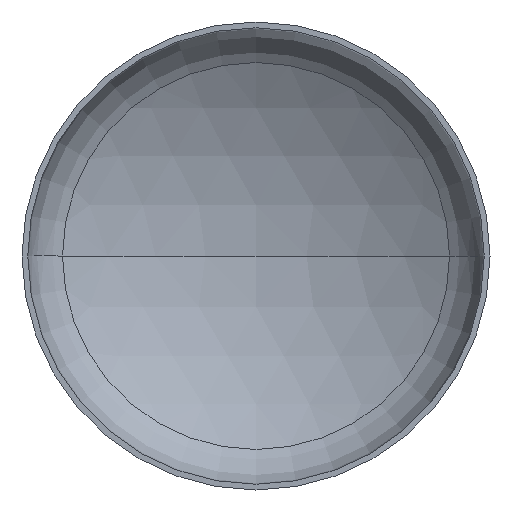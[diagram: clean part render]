
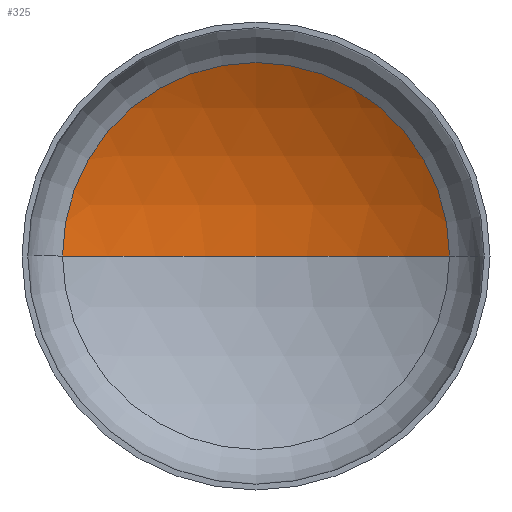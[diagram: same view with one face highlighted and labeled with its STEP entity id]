
A CAD part, front view. The second image highlights one B-rep face of the part: STEP entity #325.
In plain terms, the highlighted spherical face has radius 4400 mm.
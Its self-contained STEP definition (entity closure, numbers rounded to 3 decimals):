
#11 = AXIS2_PLACEMENT_3D ( 'NONE', #284, #146, #177 ) ;
#14 = ORIENTED_EDGE ( 'NONE', *, *, #170, .T. ) ;
#15 = CIRCLE ( 'NONE', #26, 2273.643 ) ;
#26 = AXIS2_PLACEMENT_3D ( 'NONE', #202, #218, #217 ) ;
#28 = VERTEX_POINT ( 'NONE', #56 ) ;
#38 = CARTESIAN_POINT ( 'NONE',  ( -2273.643, 843.442, 0. ) ) ;
#56 = CARTESIAN_POINT ( 'NONE',  ( 2273.643, 843.442, 0. ) ) ;
#62 = ORIENTED_EDGE ( 'NONE', *, *, #171, .T. ) ;
#71 = ORIENTED_EDGE ( 'NONE', *, *, #174, .F. ) ;
#79 = VERTEX_POINT ( 'NONE', #38 ) ;
#81 = DIRECTION ( 'NONE',  ( -1., 0., 0. ) ) ;
#99 = EDGE_LOOP ( 'NONE', ( #71, #62, #14 ) ) ;
#113 = SPHERICAL_SURFACE ( 'NONE', #326, 4400. ) ;
#119 = VERTEX_POINT ( 'NONE', #150 ) ;
#144 = DIRECTION ( 'NONE',  ( 0., 0., -1. ) ) ;
#146 = DIRECTION ( 'NONE',  ( 0., 0., -1. ) ) ;
#150 = CARTESIAN_POINT ( 'NONE',  ( 0., 1476.407, 0. ) ) ;
#154 = CIRCLE ( 'NONE', #402, 4400. ) ;
#170 = EDGE_CURVE ( 'NONE', #28, #79, #15, .T. ) ;
#171 = EDGE_CURVE ( 'NONE', #119, #28, #230, .T. ) ;
#174 = EDGE_CURVE ( 'NONE', #119, #79, #154, .T. ) ;
#177 = DIRECTION ( 'NONE',  ( -1., 0., 0. ) ) ;
#202 = CARTESIAN_POINT ( 'NONE',  ( 0., 843.442, 0. ) ) ;
#217 = DIRECTION ( 'NONE',  ( 1., 0., 0. ) ) ;
#218 = DIRECTION ( 'NONE',  ( 0., -1., 0. ) ) ;
#221 = FACE_OUTER_BOUND ( 'NONE', #99, .T. ) ;
#230 = CIRCLE ( 'NONE', #11, 4400. ) ;
#284 = CARTESIAN_POINT ( 'NONE',  ( 0., -2923.593, 0. ) ) ;
#325 = ADVANCED_FACE ( 'NONE', ( #221 ), #113, .F. ) ;
#326 = AXIS2_PLACEMENT_3D ( 'NONE', #399, #144, #81 ) ;
#371 = DIRECTION ( 'NONE',  ( 1., 0., 0. ) ) ;
#375 = DIRECTION ( 'NONE',  ( 0., 0., 1. ) ) ;
#377 = CARTESIAN_POINT ( 'NONE',  ( 0., -2923.593, 0. ) ) ;
#399 = CARTESIAN_POINT ( 'NONE',  ( 0., -2923.593, 0. ) ) ;
#402 = AXIS2_PLACEMENT_3D ( 'NONE', #377, #375, #371 ) ;
